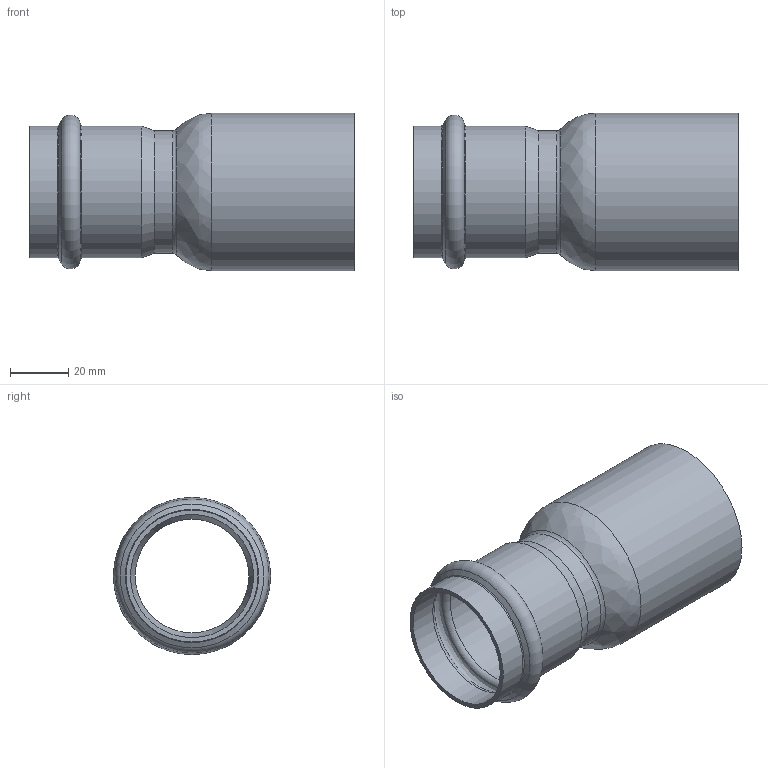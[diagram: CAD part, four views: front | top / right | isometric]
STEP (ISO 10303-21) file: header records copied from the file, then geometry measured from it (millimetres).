
FILE_DESCRIPTION((''),'2;1');
FILE_NAME('G:\Technics\CAD\Bauteile\054\692435442(1).stp','2008-03-05T15:24:45',('herberg'),(''),'Autodesk Inventor 2008','Autodesk Inventor 2008','');
FILE_SCHEMA(('AUTOMOTIVE_DESIGN { 1 0 10303 214 1 1 1 1 }'));
Length unit declared in the file: millimetre
Products named in the file (1): 692435442(1)
Bounding box: 111.5 x 54 x 54 mm (x, y, z)
Volume: 26604.9 mm3; surface area: 35926.3 mm2
Topology: 1 solids, 1 shells, 24 faces, 46 edges, 24 vertices
Faces by surface type: cylinder 8, bspline 6, cone 4, torus 4, plane 2
Full cylindrical faces by diameter (mm): 39 x1, 42 x1, 42.3 x2, 45.3 x2, 51 x1, 54 x1
Entity records: 790 total; most frequent: CARTESIAN_POINT 373, DIRECTION 86, ORIENTED_EDGE 48, EDGE_LOOP 48, AXIS2_PLACEMENT_3D 43, VERTEX_POINT 24, CIRCLE 24, EDGE_CURVE 24
